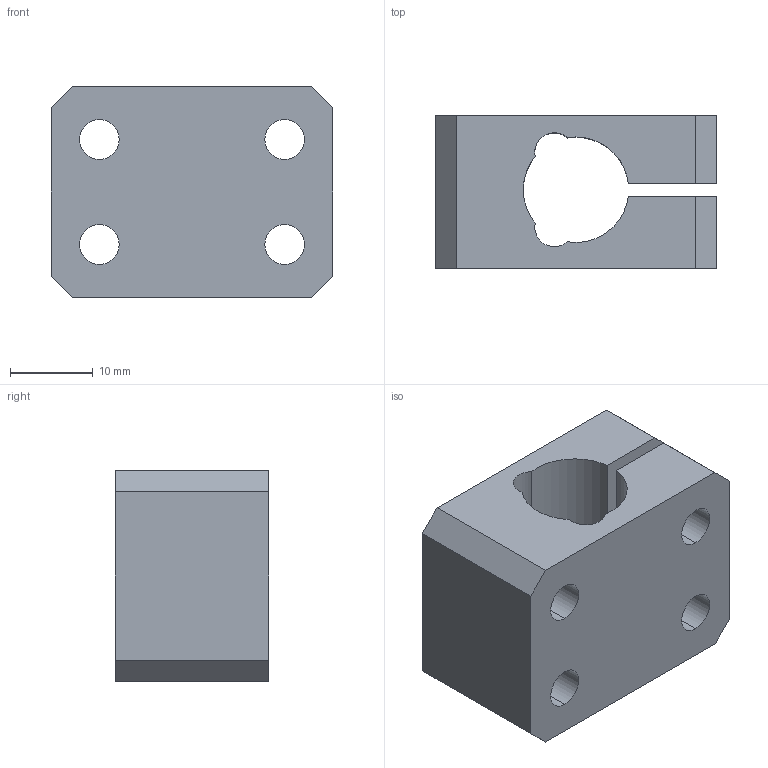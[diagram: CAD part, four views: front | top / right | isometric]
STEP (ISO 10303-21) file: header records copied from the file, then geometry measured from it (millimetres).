
FILE_DESCRIPTION (( 'STEP AP214' ), '1' );
FILE_NAME ('RTI-RSPM-50.STEP', '2013-10-22T14:41:08', ( 'user' ), ( '' ), 'SwSTEP 2.0', 'SolidWorks 2009', '' );
FILE_SCHEMA (( 'AUTOMOTIVE_DESIGN' ));
Length unit declared in the file: inch
Products named in the file (1): RTI-RSPM-50
Bounding box: 34.04 x 18.54 x 25.4 mm (x, y, z)
Volume: 10078.6 mm3; surface area: 6092.1 mm2
Topology: 1 solids, 1 shells, 312 faces, 810 edges, 540 vertices
Faces by surface type: plane 185, bspline 101, cylinder 26
Entity records: 18850 total; most frequent: CARTESIAN_POINT 8468, ORIENTED_EDGE 1620, DIRECTION 1084, EDGE_CURVE 810, LINE 556, VECTOR 556, VERTEX_POINT 540, EDGE_LOOP 364
